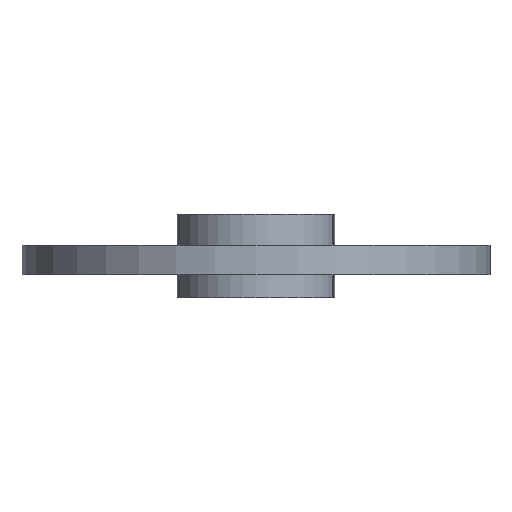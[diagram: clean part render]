
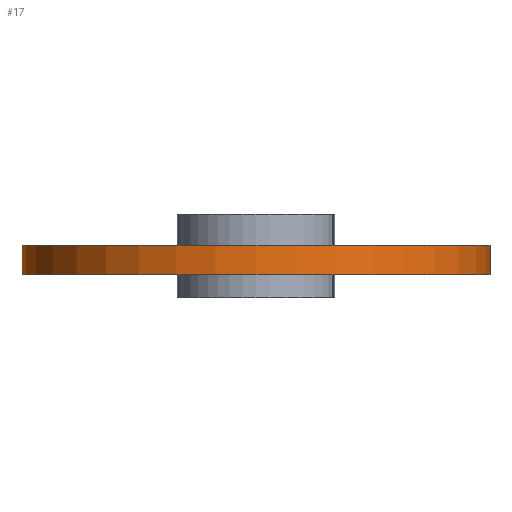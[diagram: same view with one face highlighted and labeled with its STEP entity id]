
A CAD part, front view. The second image highlights one B-rep face of the part: STEP entity #17.
In plain terms, the highlighted cylindrical face has radius 12 mm (diameter 24 mm), a full revolution.
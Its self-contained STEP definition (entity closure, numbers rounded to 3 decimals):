
#17 = ADVANCED_FACE('',(#18),#31,.T.);
#18 = FACE_BOUND('',#19,.T.);
#19 = EDGE_LOOP('',(#20,#54,#77,#104));
#20 = ORIENTED_EDGE('',*,*,#21,.F.);
#21 = EDGE_CURVE('',#22,#22,#24,.T.);
#22 = VERTEX_POINT('',#23);
#23 = CARTESIAN_POINT('',(12.,0.,-1.4));
#24 = SURFACE_CURVE('',#25,(#30,#42),.PCURVE_S1.);
#25 = CIRCLE('',#26,12.);
#26 = AXIS2_PLACEMENT_3D('',#27,#28,#29);
#27 = CARTESIAN_POINT('',(0.,0.,-1.4));
#28 = DIRECTION('',(0.,0.,1.));
#29 = DIRECTION('',(1.,0.,-0.));
#30 = PCURVE('',#31,#36);
#31 = CYLINDRICAL_SURFACE('',#32,12.);
#32 = AXIS2_PLACEMENT_3D('',#33,#34,#35);
#33 = CARTESIAN_POINT('',(0.,0.,-2.9));
#34 = DIRECTION('',(0.,0.,1.));
#35 = DIRECTION('',(1.,0.,-0.));
#36 = DEFINITIONAL_REPRESENTATION('',(#37),#41);
#37 = LINE('',#38,#39);
#38 = CARTESIAN_POINT('',(0.,1.5));
#39 = VECTOR('',#40,1.);
#40 = DIRECTION('',(1.,0.));
#41 = ( GEOMETRIC_REPRESENTATION_CONTEXT(2) 
PARAMETRIC_REPRESENTATION_CONTEXT() REPRESENTATION_CONTEXT('2D SPACE',''
  ) );
#42 = PCURVE('',#43,#48);
#43 = PLANE('',#44);
#44 = AXIS2_PLACEMENT_3D('',#45,#46,#47);
#45 = CARTESIAN_POINT('',(0.,0.,-1.4));
#46 = DIRECTION('',(0.,0.,1.));
#47 = DIRECTION('',(1.,0.,-0.));
#48 = DEFINITIONAL_REPRESENTATION('',(#49),#53);
#49 = CIRCLE('',#50,12.);
#50 = AXIS2_PLACEMENT_2D('',#51,#52);
#51 = CARTESIAN_POINT('',(0.,0.));
#52 = DIRECTION('',(1.,0.));
#53 = ( GEOMETRIC_REPRESENTATION_CONTEXT(2) 
PARAMETRIC_REPRESENTATION_CONTEXT() REPRESENTATION_CONTEXT('2D SPACE',''
  ) );
#54 = ORIENTED_EDGE('',*,*,#55,.F.);
#55 = EDGE_CURVE('',#56,#22,#58,.T.);
#56 = VERTEX_POINT('',#57);
#57 = CARTESIAN_POINT('',(12.,0.,-2.9));
#58 = SEAM_CURVE('',#59,(#63,#70),.PCURVE_S1.);
#59 = LINE('',#60,#61);
#60 = CARTESIAN_POINT('',(12.,0.,-2.9));
#61 = VECTOR('',#62,1.);
#62 = DIRECTION('',(0.,0.,1.));
#63 = PCURVE('',#31,#64);
#64 = DEFINITIONAL_REPRESENTATION('',(#65),#69);
#65 = LINE('',#66,#67);
#66 = CARTESIAN_POINT('',(6.283,-0.));
#67 = VECTOR('',#68,1.);
#68 = DIRECTION('',(0.,1.));
#69 = ( GEOMETRIC_REPRESENTATION_CONTEXT(2) 
PARAMETRIC_REPRESENTATION_CONTEXT() REPRESENTATION_CONTEXT('2D SPACE',''
  ) );
#70 = PCURVE('',#31,#71);
#71 = DEFINITIONAL_REPRESENTATION('',(#72),#76);
#72 = LINE('',#73,#74);
#73 = CARTESIAN_POINT('',(0.,-0.));
#74 = VECTOR('',#75,1.);
#75 = DIRECTION('',(0.,1.));
#76 = ( GEOMETRIC_REPRESENTATION_CONTEXT(2) 
PARAMETRIC_REPRESENTATION_CONTEXT() REPRESENTATION_CONTEXT('2D SPACE',''
  ) );
#77 = ORIENTED_EDGE('',*,*,#78,.T.);
#78 = EDGE_CURVE('',#56,#56,#79,.T.);
#79 = SURFACE_CURVE('',#80,(#85,#92),.PCURVE_S1.);
#80 = CIRCLE('',#81,12.);
#81 = AXIS2_PLACEMENT_3D('',#82,#83,#84);
#82 = CARTESIAN_POINT('',(0.,0.,-2.9));
#83 = DIRECTION('',(0.,0.,1.));
#84 = DIRECTION('',(1.,0.,-0.));
#85 = PCURVE('',#31,#86);
#86 = DEFINITIONAL_REPRESENTATION('',(#87),#91);
#87 = LINE('',#88,#89);
#88 = CARTESIAN_POINT('',(0.,0.));
#89 = VECTOR('',#90,1.);
#90 = DIRECTION('',(1.,0.));
#91 = ( GEOMETRIC_REPRESENTATION_CONTEXT(2) 
PARAMETRIC_REPRESENTATION_CONTEXT() REPRESENTATION_CONTEXT('2D SPACE',''
  ) );
#92 = PCURVE('',#93,#98);
#93 = PLANE('',#94);
#94 = AXIS2_PLACEMENT_3D('',#95,#96,#97);
#95 = CARTESIAN_POINT('',(0.,0.,-2.9));
#96 = DIRECTION('',(0.,0.,1.));
#97 = DIRECTION('',(1.,0.,-0.));
#98 = DEFINITIONAL_REPRESENTATION('',(#99),#103);
#99 = CIRCLE('',#100,12.);
#100 = AXIS2_PLACEMENT_2D('',#101,#102);
#101 = CARTESIAN_POINT('',(0.,0.));
#102 = DIRECTION('',(1.,0.));
#103 = ( GEOMETRIC_REPRESENTATION_CONTEXT(2) 
PARAMETRIC_REPRESENTATION_CONTEXT() REPRESENTATION_CONTEXT('2D SPACE',''
  ) );
#104 = ORIENTED_EDGE('',*,*,#55,.T.);
